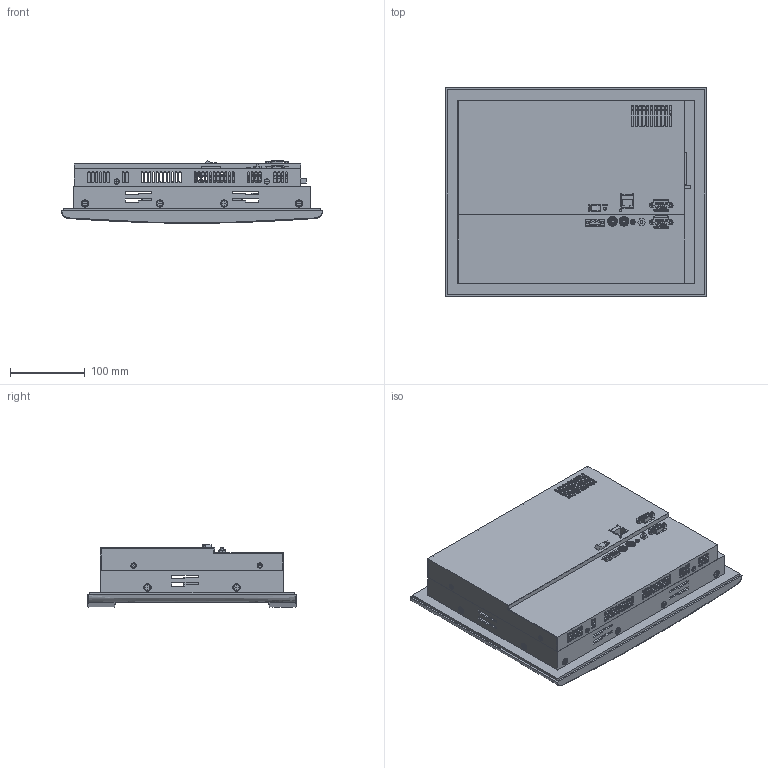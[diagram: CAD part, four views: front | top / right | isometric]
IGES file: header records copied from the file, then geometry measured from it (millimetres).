
Start section:  PTC IGES file: pa10dud.igs
Global section: file name: pa10dud.igs; native system: Pro/ENGINEER by Parametric Technology Corporation; preprocessor: 2000100; author: sebstein; organization: Unknown; date: 040415.095800; units: inch
Bounding box: 350.01 x 279.4 x 83.56 mm (x, y, z)
Surface area: 731569.8 mm2 (no closed solid volume)
Topology: 0 solids, 0 shells, 1995 faces, 12559 edges, 12559 vertices
Faces by surface type: bspline 1264, revolution 731
